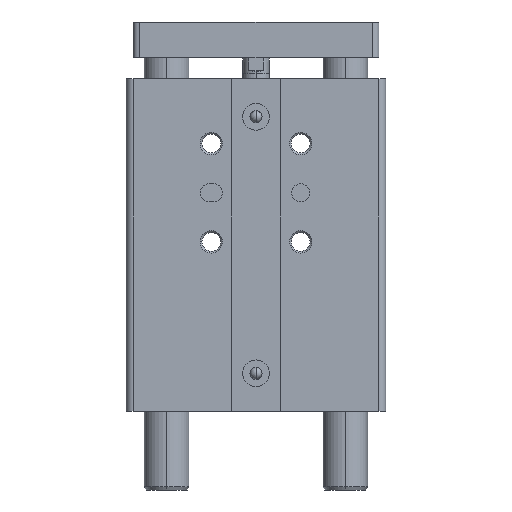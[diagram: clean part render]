
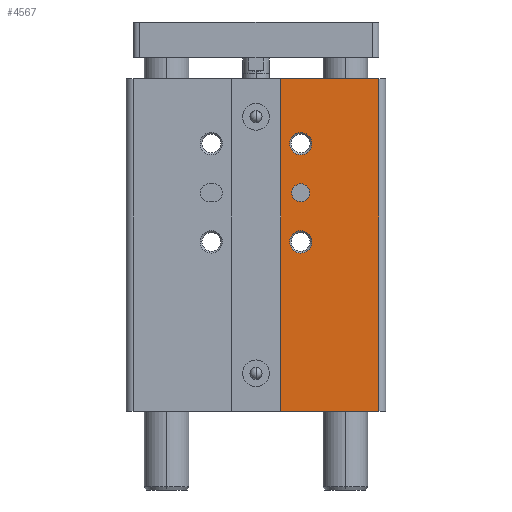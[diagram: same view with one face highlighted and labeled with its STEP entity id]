
A CAD part, front view. The second image highlights one B-rep face of the part: STEP entity #4567.
In plain terms, the highlighted planar face has unit normal (0, -1, 0).
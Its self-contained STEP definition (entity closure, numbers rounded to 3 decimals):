
#45=DIRECTION('',(-1.,0.,0.));
#46=VECTOR('',#45,22.);
#47=CARTESIAN_POINT('',(27.5,-13.5,0.));
#48=LINE('',#47,#46);
#548=DIRECTION('',(-1.,0.,0.));
#549=VECTOR('',#548,22.);
#550=CARTESIAN_POINT('',(27.5,-13.5,-74.4));
#551=LINE('',#550,#549);
#1078=DIRECTION('',(0.,0.,-1.));
#1079=VECTOR('',#1078,74.4);
#1080=CARTESIAN_POINT('',(5.5,-13.5,0.));
#1081=LINE('',#1080,#1079);
#1082=DIRECTION('',(0.,0.,-1.));
#1083=VECTOR('',#1082,74.4);
#1084=CARTESIAN_POINT('',(27.5,-13.5,0.));
#1085=LINE('',#1084,#1083);
#1086=CARTESIAN_POINT('',(10.,-13.5,-14.5));
#1087=DIRECTION('',(0.,1.,0.));
#1088=DIRECTION('',(0.,0.,1.));
#1089=AXIS2_PLACEMENT_3D('',#1086,#1087,#1088);
#1091=CARTESIAN_POINT('',(10.,-13.5,-14.5));
#1092=DIRECTION('',(0.,1.,0.));
#1093=DIRECTION('',(0.,0.,-1.));
#1094=AXIS2_PLACEMENT_3D('',#1091,#1092,#1093);
#1096=CARTESIAN_POINT('',(10.,-13.5,-36.5));
#1097=DIRECTION('',(0.,1.,0.));
#1098=DIRECTION('',(0.,0.,1.));
#1099=AXIS2_PLACEMENT_3D('',#1096,#1097,#1098);
#1101=CARTESIAN_POINT('',(10.,-13.5,-36.5));
#1102=DIRECTION('',(0.,1.,0.));
#1103=DIRECTION('',(0.,0.,-1.));
#1104=AXIS2_PLACEMENT_3D('',#1101,#1102,#1103);
#1106=CARTESIAN_POINT('',(10.,-13.5,-25.5));
#1107=DIRECTION('',(0.,-1.,0.));
#1108=DIRECTION('',(1.,0.,0.));
#1109=AXIS2_PLACEMENT_3D('',#1106,#1107,#1108);
#1111=CARTESIAN_POINT('',(10.,-13.5,-25.5));
#1112=DIRECTION('',(0.,-1.,0.));
#1113=DIRECTION('',(-1.,0.,0.));
#1114=AXIS2_PLACEMENT_3D('',#1111,#1112,#1113);
#2678=CARTESIAN_POINT('',(27.5,-13.5,0.));
#2679=VERTEX_POINT('',#2678);
#2680=CARTESIAN_POINT('',(5.5,-13.5,0.));
#2681=VERTEX_POINT('',#2680);
#2754=CARTESIAN_POINT('',(27.5,-13.5,-74.4));
#2755=VERTEX_POINT('',#2754);
#2756=CARTESIAN_POINT('',(5.5,-13.5,-74.4));
#2757=VERTEX_POINT('',#2756);
#3138=CARTESIAN_POINT('',(12.,-13.5,-25.5));
#3139=CARTESIAN_POINT('',(8.,-13.5,-25.5));
#3140=VERTEX_POINT('',#3138);
#3141=VERTEX_POINT('',#3139);
#3174=CARTESIAN_POINT('',(10.,-13.5,-12.));
#3175=CARTESIAN_POINT('',(10.,-13.5,-17.));
#3176=VERTEX_POINT('',#3174);
#3177=VERTEX_POINT('',#3175);
#3246=CARTESIAN_POINT('',(10.,-13.5,-34.));
#3247=CARTESIAN_POINT('',(10.,-13.5,-39.));
#3248=VERTEX_POINT('',#3246);
#3249=VERTEX_POINT('',#3247);
#4537=CARTESIAN_POINT('',(27.5,-13.5,0.));
#4538=DIRECTION('',(0.,-1.,0.));
#4539=DIRECTION('',(-1.,0.,0.));
#4540=AXIS2_PLACEMENT_3D('',#4537,#4538,#4539);
#4541=PLANE('',#4540);
#4542=ORIENTED_EDGE('',*,*,#3351,.F.);
#4544=ORIENTED_EDGE('',*,*,#4543,.T.);
#4545=ORIENTED_EDGE('',*,*,#3923,.T.);
#4546=ORIENTED_EDGE('',*,*,#4530,.F.);
#4547=EDGE_LOOP('',(#4542,#4544,#4545,#4546));
#4548=FACE_OUTER_BOUND('',#4547,.F.);
#4550=ORIENTED_EDGE('',*,*,#4549,.F.);
#4552=ORIENTED_EDGE('',*,*,#4551,.F.);
#4553=EDGE_LOOP('',(#4550,#4552));
#4554=FACE_BOUND('',#4553,.F.);
#4556=ORIENTED_EDGE('',*,*,#4555,.F.);
#4558=ORIENTED_EDGE('',*,*,#4557,.F.);
#4559=EDGE_LOOP('',(#4556,#4558));
#4560=FACE_BOUND('',#4559,.F.);
#4562=ORIENTED_EDGE('',*,*,#4561,.T.);
#4564=ORIENTED_EDGE('',*,*,#4563,.T.);
#4565=EDGE_LOOP('',(#4562,#4564));
#4566=FACE_BOUND('',#4565,.F.);
#4567=ADVANCED_FACE('',(#4548,#4554,#4560,#4566),#4541,.T.);
#1090=CIRCLE('',#1089,2.5);
#1095=CIRCLE('',#1094,2.5);
#1100=CIRCLE('',#1099,2.5);
#1105=CIRCLE('',#1104,2.5);
#1110=CIRCLE('',#1109,2.);
#1115=CIRCLE('',#1114,2.);
#3351=EDGE_CURVE('',#2679,#2681,#48,.T.);
#3923=EDGE_CURVE('',#2755,#2757,#551,.T.);
#4530=EDGE_CURVE('',#2681,#2757,#1081,.T.);
#4543=EDGE_CURVE('',#2679,#2755,#1085,.T.);
#4549=EDGE_CURVE('',#3176,#3177,#1090,.T.);
#4551=EDGE_CURVE('',#3177,#3176,#1095,.T.);
#4555=EDGE_CURVE('',#3248,#3249,#1100,.T.);
#4557=EDGE_CURVE('',#3249,#3248,#1105,.T.);
#4561=EDGE_CURVE('',#3140,#3141,#1110,.T.);
#4563=EDGE_CURVE('',#3141,#3140,#1115,.T.);
